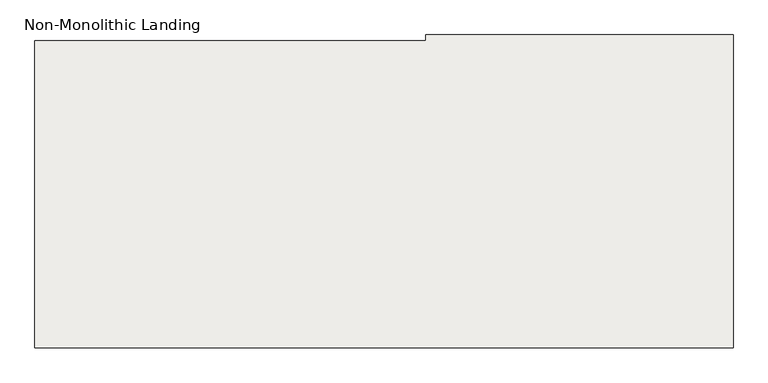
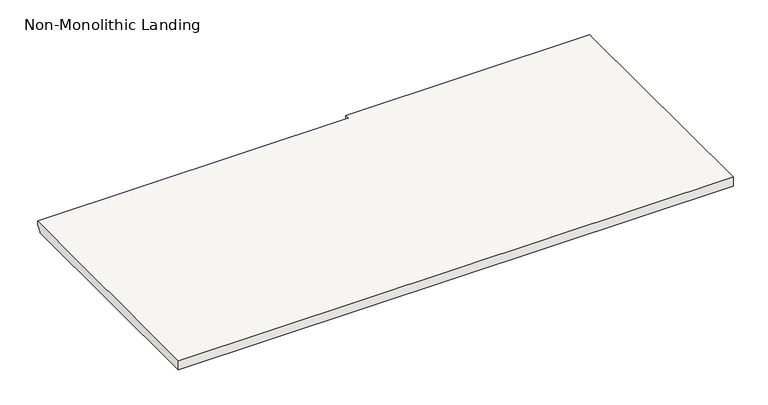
"""IFC4 building model written with IfcOpenShell, lengths in millimetres: slab geometry, Non-Monolithic Landing."""

from ifc_helpers import new_model, si_unit, origin, place, context, project, spatial, faceted_brep, source, transform, mapped, element, save


def non_monolithic_landing_76c3c681(model_context):
    return source(origin(), model_context, "Body", "Brep", [
        faceted_brep([(16154.1309087, 1981.2, 1662.43), (16154.1309087, 2006.6, 1687.83), (17449.81205, 2006.6, 1687.83), (17449.81205, 1981.2, 1662.43), (16154.1309087, 711.2, 1706.88), (19103.0258576, 711.2, 1706.88), (19103.0258576, 2006.6, 1706.88), (19103.0258576, 2032.0, 1706.88), (17805.404894, 2032.0, 1706.88), (17805.404894, 2006.6, 1706.88), (16154.1309087, 2006.6, 1706.88), (17449.81205, 1981.2, 1656.08), (17449.81205, 2006.6, 1656.08), (17805.404894, 2006.6, 1656.08), (17805.404894, 2032.0, 1656.08), (19103.0258576, 2032.0, 1656.08), (19103.0258576, 2006.6, 1656.08), (19103.0258576, 711.2, 1656.08), (16154.1309087, 711.2, 1656.08), (16154.1309087, 1981.2, 1656.08)], [[[0, 1, 2, 3]], [[4, 5, 6, 7, 8, 9, 10]], [[11, 12, 13, 14, 15, 16, 17, 18, 19]], [[12, 11, 3, 2]], [[11, 19, 0, 3]], [[4, 10, 1, 0, 19, 18]], [[5, 4, 18, 17]], [[6, 5, 17, 16]], [[7, 6, 16, 15]], [[8, 7, 15, 14]], [[9, 8, 14, 13]], [[10, 9, 13, 12, 2, 1]]]),
    ])


if __name__ == "__main__":
    model = new_model("IFC4")
    model_context = context("Model", 3, world=origin())
    ifc_project = project(units=[si_unit("LENGTHUNIT", "METRE", prefix="MILLI")], contexts=[model_context])
    site = spatial("IfcSite", under=ifc_project)
    building = spatial("IfcBuilding", under=site)
    placement = place(None, origin())
    non_monolithic_landing_shape = non_monolithic_landing_76c3c681(model_context)
    element("IfcSlab", 1, ObjectType="Non-Monolithic Landing", at=placement, inside=building, context=model_context, shape_type="MappedRepresentation", body=[
        mapped(non_monolithic_landing_shape, transform((0.0, 0.0, 0.0), x_axis=(1.0, 0.0, 0.0), y_axis=(0.0, 1.0, 0.0), z_axis=(0.0, 0.0, 1.0))),
    ])
    save(model, "model.ifc")
